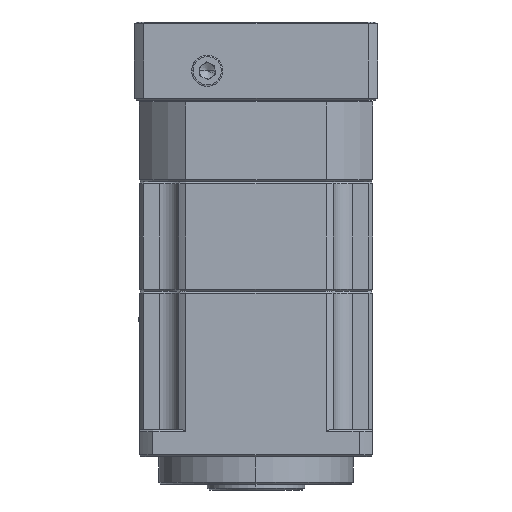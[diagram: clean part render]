
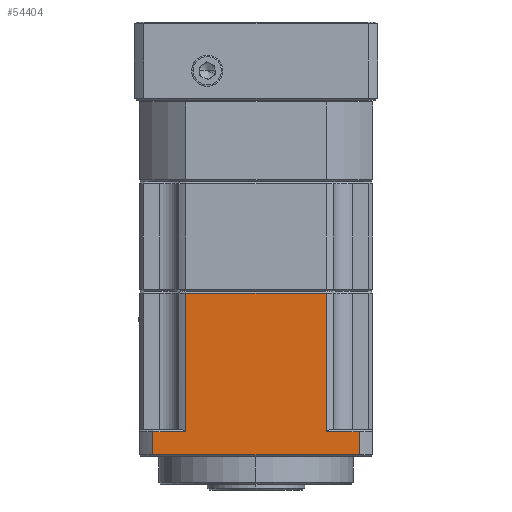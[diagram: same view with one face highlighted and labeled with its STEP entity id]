
A CAD part, left-side view. The second image highlights one B-rep face of the part: STEP entity #54404.
In plain terms, the highlighted planar face has unit normal (-1, 0, 0).
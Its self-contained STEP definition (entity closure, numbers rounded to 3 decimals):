
#988 = DIRECTION ( 'NONE',  ( 0., 0., 1. ) ) ;
#7094 = VERTEX_POINT ( 'NONE', #57299 ) ;
#10693 = CARTESIAN_POINT ( 'NONE',  ( -60.578, 36.034, -59.63 ) ) ;
#13593 = VERTEX_POINT ( 'NONE', #68678 ) ;
#15445 = EDGE_CURVE ( 'NONE', #7094, #80862, #25688, .T. ) ;
#15638 = ORIENTED_EDGE ( 'NONE', *, *, #38638, .F. ) ;
#18849 = DIRECTION ( 'NONE',  ( 0., 0., 1. ) ) ;
#19167 = VECTOR ( 'NONE', #988, 1000. ) ;
#19529 = VECTOR ( 'NONE', #94624, 1000. ) ;
#19905 = ORIENTED_EDGE ( 'NONE', *, *, #66219, .F. ) ;
#21032 = CARTESIAN_POINT ( 'NONE',  ( -60.578, 44.464, -101.13 ) ) ;
#23827 = DIRECTION ( 'NONE',  ( 0., 1., 0. ) ) ;
#24182 = CARTESIAN_POINT ( 'NONE',  ( -60.578, -11.994, -101.13 ) ) ;
#25688 = LINE ( 'NONE', #66688, #68669 ) ;
#30949 = LINE ( 'NONE', #91122, #45697 ) ;
#31515 = EDGE_LOOP ( 'NONE', ( #86771, #19905, #15638, #46496, #87556, #44172, #79535, #57501 ) ) ;
#33469 = VERTEX_POINT ( 'NONE', #80410 ) ;
#33690 = CARTESIAN_POINT ( 'NONE',  ( -60.578, -11.994, -95.13 ) ) ;
#34083 = PLANE ( 'NONE',  #49716 ) ;
#35230 = LINE ( 'NONE', #24182, #51436 ) ;
#35553 = LINE ( 'NONE', #104225, #78515 ) ;
#38638 = EDGE_CURVE ( 'NONE', #33469, #13593, #55769, .T. ) ;
#42927 = EDGE_CURVE ( 'NONE', #103420, #98042, #30949, .T. ) ;
#43240 = VERTEX_POINT ( 'NONE', #61464 ) ;
#43809 = DIRECTION ( 'NONE',  ( 0., -1., 0. ) ) ;
#44172 = ORIENTED_EDGE ( 'NONE', *, *, #15445, .F. ) ;
#45697 = VECTOR ( 'NONE', #99655, 1000. ) ;
#46496 = ORIENTED_EDGE ( 'NONE', *, *, #72373, .F. ) ;
#48469 = EDGE_CURVE ( 'NONE', #98042, #43240, #48944, .T. ) ;
#48944 = LINE ( 'NONE', #86028, #19529 ) ;
#48945 = VECTOR ( 'NONE', #79232, 1000. ) ;
#49716 = AXIS2_PLACEMENT_3D ( 'NONE', #102318, #101918, #76123 ) ;
#51436 = VECTOR ( 'NONE', #23827, 1000. ) ;
#54404 = ADVANCED_FACE ( 'NONE', ( #109647 ), #34083, .F. ) ;
#55769 = LINE ( 'NONE', #33690, #75962 ) ;
#57299 = CARTESIAN_POINT ( 'NONE',  ( -60.578, -8.451, -95.13 ) ) ;
#57501 = ORIENTED_EDGE ( 'NONE', *, *, #48469, .F. ) ;
#58272 = LINE ( 'NONE', #69162, #48945 ) ;
#59929 = EDGE_CURVE ( 'NONE', #43240, #7094, #58272, .T. ) ;
#61464 = CARTESIAN_POINT ( 'NONE',  ( -60.578, -0.022, -95.13 ) ) ;
#62056 = LINE ( 'NONE', #94941, #19167 ) ;
#66219 = EDGE_CURVE ( 'NONE', #13593, #103420, #35553, .T. ) ;
#66688 = CARTESIAN_POINT ( 'NONE',  ( -60.578, -8.451, -64.63 ) ) ;
#68669 = VECTOR ( 'NONE', #83915, 1000. ) ;
#68678 = CARTESIAN_POINT ( 'NONE',  ( -60.578, 36.034, -95.13 ) ) ;
#69162 = CARTESIAN_POINT ( 'NONE',  ( -60.578, -11.994, -95.13 ) ) ;
#72373 = EDGE_CURVE ( 'NONE', #90918, #33469, #62056, .T. ) ;
#75962 = VECTOR ( 'NONE', #43809, 1000. ) ;
#76123 = DIRECTION ( 'NONE',  ( 0., 0., -1. ) ) ;
#78515 = VECTOR ( 'NONE', #18849, 1000. ) ;
#79232 = DIRECTION ( 'NONE',  ( 0., -1., 0. ) ) ;
#79535 = ORIENTED_EDGE ( 'NONE', *, *, #59929, .F. ) ;
#80410 = CARTESIAN_POINT ( 'NONE',  ( -60.578, 44.464, -95.13 ) ) ;
#80862 = VERTEX_POINT ( 'NONE', #102923 ) ;
#83915 = DIRECTION ( 'NONE',  ( 0., 0., -1. ) ) ;
#86028 = CARTESIAN_POINT ( 'NONE',  ( -60.578, -0.022, -64.63 ) ) ;
#86771 = ORIENTED_EDGE ( 'NONE', *, *, #42927, .F. ) ;
#87556 = ORIENTED_EDGE ( 'NONE', *, *, #90480, .F. ) ;
#90480 = EDGE_CURVE ( 'NONE', #80862, #90918, #35230, .T. ) ;
#90918 = VERTEX_POINT ( 'NONE', #21032 ) ;
#91122 = CARTESIAN_POINT ( 'NONE',  ( -60.578, 18.006, -59.63 ) ) ;
#94624 = DIRECTION ( 'NONE',  ( 0., 0., -1. ) ) ;
#94941 = CARTESIAN_POINT ( 'NONE',  ( -60.578, 44.464, -64.63 ) ) ;
#98042 = VERTEX_POINT ( 'NONE', #110389 ) ;
#99655 = DIRECTION ( 'NONE',  ( 0., -1., 0. ) ) ;
#101918 = DIRECTION ( 'NONE',  ( 1., 0., 0. ) ) ;
#102318 = CARTESIAN_POINT ( 'NONE',  ( -60.578, -11.994, -64.63 ) ) ;
#102923 = CARTESIAN_POINT ( 'NONE',  ( -60.578, -8.451, -101.13 ) ) ;
#103420 = VERTEX_POINT ( 'NONE', #10693 ) ;
#104225 = CARTESIAN_POINT ( 'NONE',  ( -60.578, 36.034, -64.63 ) ) ;
#109647 = FACE_OUTER_BOUND ( 'NONE', #31515, .T. ) ;
#110389 = CARTESIAN_POINT ( 'NONE',  ( -60.578, -0.022, -59.63 ) ) ;
